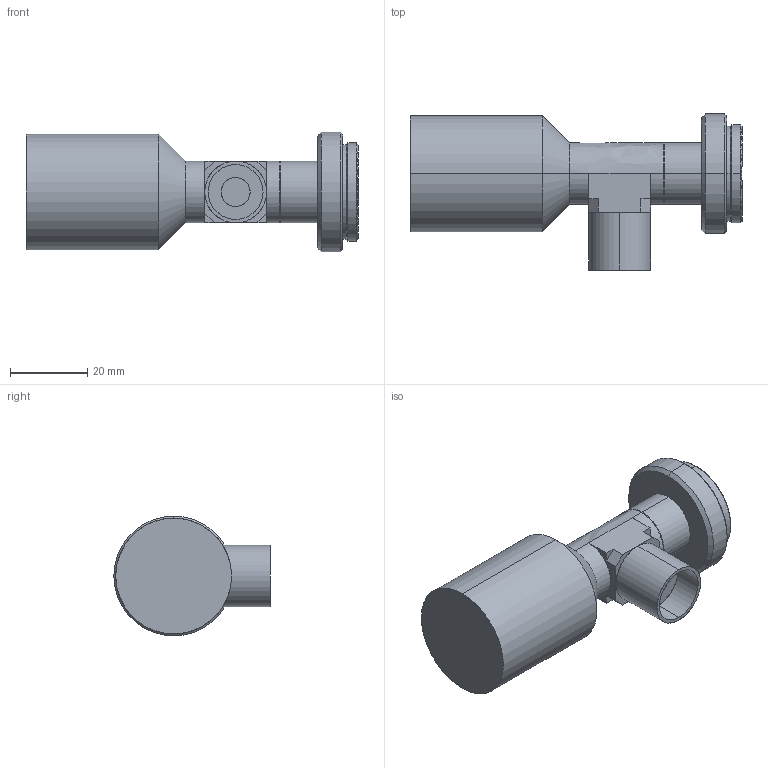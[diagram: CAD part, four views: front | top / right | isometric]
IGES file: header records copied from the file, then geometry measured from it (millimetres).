
Start section: SolidWorks IGES file using analytic representation for surfaces
Bounding box: 86 x 40.5 x 31 mm (x, y, z)
Surface area: 10111.8 mm2 (no closed solid volume)
Topology: 0 solids, 0 shells, 56 faces, 724 edges, 724 vertices
Faces by surface type: revolution 33, bspline 23
